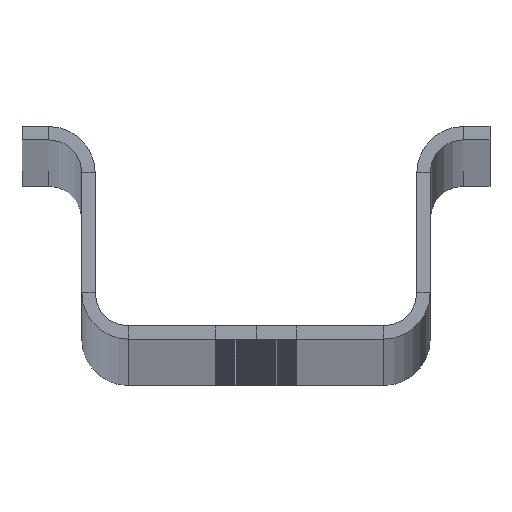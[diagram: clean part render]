
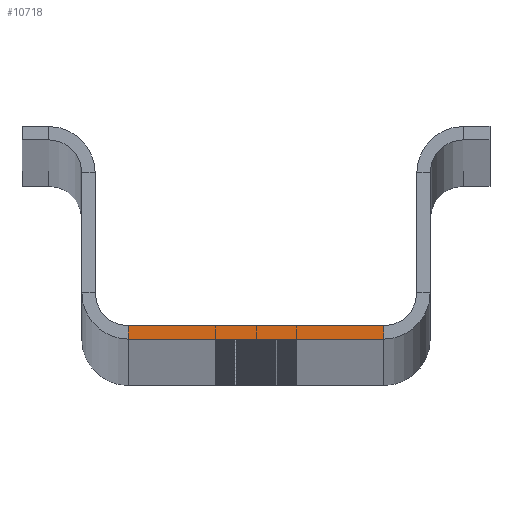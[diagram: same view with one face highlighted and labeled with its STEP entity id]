
A CAD part, top view. The second image highlights one B-rep face of the part: STEP entity #10718.
In plain terms, the highlighted planar face has unit normal (0, 0, 1).
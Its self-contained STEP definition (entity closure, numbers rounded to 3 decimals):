
#216 = CARTESIAN_POINT ( 'NONE',  ( 9.6, -1., 2000. ) ) ;
#397 = CARTESIAN_POINT ( 'NONE',  ( -13.1, 2.5, 2000. ) ) ;
#418 = VERTEX_POINT ( 'NONE', #12389 ) ;
#1188 = VERTEX_POINT ( 'NONE', #14446 ) ;
#1342 = CARTESIAN_POINT ( 'NONE',  ( -12.1, 0., 2000. ) ) ;
#1397 = DIRECTION ( 'NONE',  ( -1., 0., 0. ) ) ;
#1601 = VECTOR ( 'NONE', #1397, 1000. ) ;
#1823 = EDGE_CURVE ( 'NONE', #418, #1188, #4848, .T. ) ;
#2002 = LINE ( 'NONE', #3353, #3636 ) ;
#2735 = DIRECTION ( 'NONE',  ( 1., 0., 0. ) ) ;
#2777 = ORIENTED_EDGE ( 'NONE', *, *, #1823, .T. ) ;
#3353 = CARTESIAN_POINT ( 'NONE',  ( 9.6, -1., 2000. ) ) ;
#3543 = DIRECTION ( 'NONE',  ( -1., 0., 0. ) ) ;
#3636 = VECTOR ( 'NONE', #13732, 1000. ) ;
#4132 = VERTEX_POINT ( 'NONE', #11355 ) ;
#4848 = LINE ( 'NONE', #1342, #1601 ) ;
#5038 = DIRECTION ( 'NONE',  ( 0., -1., 0. ) ) ;
#5715 = EDGE_CURVE ( 'NONE', #11650, #418, #2002, .T. ) ;
#6144 = ORIENTED_EDGE ( 'NONE', *, *, #7262, .F. ) ;
#6200 = PLANE ( 'NONE',  #14810 ) ;
#7019 = EDGE_CURVE ( 'NONE', #1188, #4132, #12437, .T. ) ;
#7262 = EDGE_CURVE ( 'NONE', #11650, #4132, #8254, .T. ) ;
#8254 = LINE ( 'NONE', #11398, #10910 ) ;
#8470 = DIRECTION ( 'NONE',  ( 0., 0., 1. ) ) ;
#9466 = FACE_OUTER_BOUND ( 'NONE', #11348, .T. ) ;
#10266 = VECTOR ( 'NONE', #5038, 1000. ) ;
#10718 = ADVANCED_FACE ( 'NONE', ( #9466 ), #6200, .T. ) ;
#10910 = VECTOR ( 'NONE', #3543, 1000. ) ;
#11348 = EDGE_LOOP ( 'NONE', ( #2777, #13724, #6144, #11402 ) ) ;
#11355 = CARTESIAN_POINT ( 'NONE',  ( -9.6, -1., 2000. ) ) ;
#11398 = CARTESIAN_POINT ( 'NONE',  ( -12.1, -1., 2000. ) ) ;
#11402 = ORIENTED_EDGE ( 'NONE', *, *, #5715, .T. ) ;
#11650 = VERTEX_POINT ( 'NONE', #216 ) ;
#12389 = CARTESIAN_POINT ( 'NONE',  ( 9.6, 0., 2000. ) ) ;
#12437 = LINE ( 'NONE', #13067, #10266 ) ;
#13067 = CARTESIAN_POINT ( 'NONE',  ( -9.6, 0., 2000. ) ) ;
#13724 = ORIENTED_EDGE ( 'NONE', *, *, #7019, .T. ) ;
#13732 = DIRECTION ( 'NONE',  ( 0., 1., 0. ) ) ;
#14446 = CARTESIAN_POINT ( 'NONE',  ( -9.6, 0., 2000. ) ) ;
#14810 = AXIS2_PLACEMENT_3D ( 'NONE', #397, #8470, #2735 ) ;
